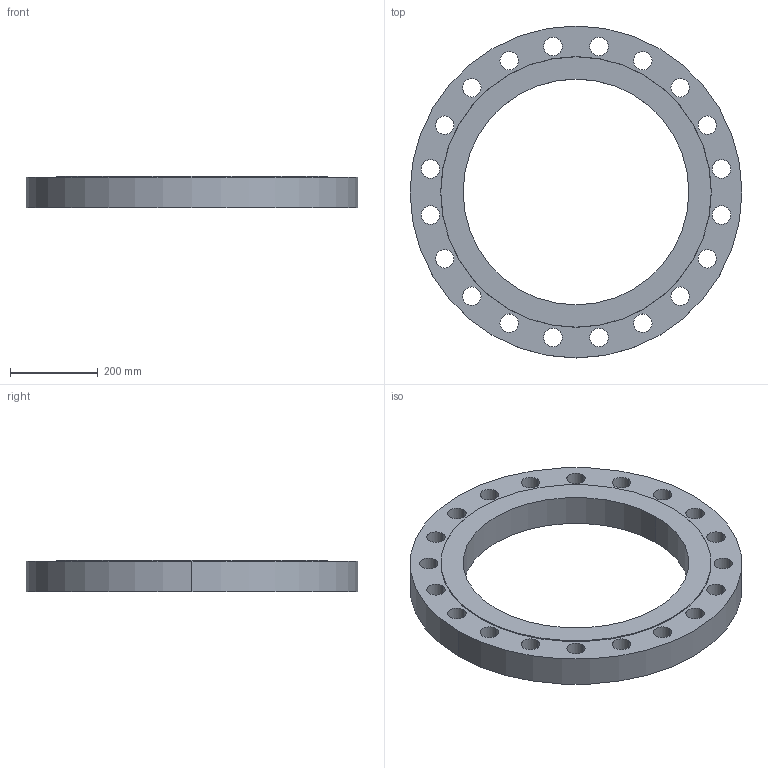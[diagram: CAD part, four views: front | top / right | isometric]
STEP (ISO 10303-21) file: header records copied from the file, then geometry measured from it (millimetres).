
FILE_DESCRIPTION (( 'STEP AP214' ), '1' );
FILE_NAME ('PN40 DN500 Type 01 - Type B Face.STEP', '2018-12-29T01:39:13', ( '' ), ( '' ), 'SwSTEP 2.0', 'SolidWorks 2019', '' );
FILE_SCHEMA (( 'AUTOMOTIVE_DESIGN' ));
Length unit declared in the file: millimetre
Products named in the file (1): PN40 DN500 Type 01 - Type B Face
Bounding box: 755 x 755 x 72 mm (x, y, z)
Volume: 15083058 mm3; surface area: 895938.4 mm2
Topology: 1 solids, 1 shells, 49 faces, 138 edges, 92 vertices
Faces by surface type: cylinder 44, plane 3, cone 2
Entity records: 1762 total; most frequent: DIRECTION 330, CARTESIAN_POINT 280, ORIENTED_EDGE 276, AXIS2_PLACEMENT_3D 142, EDGE_CURVE 138, CIRCLE 92, VERTEX_POINT 92, EDGE_LOOP 92
